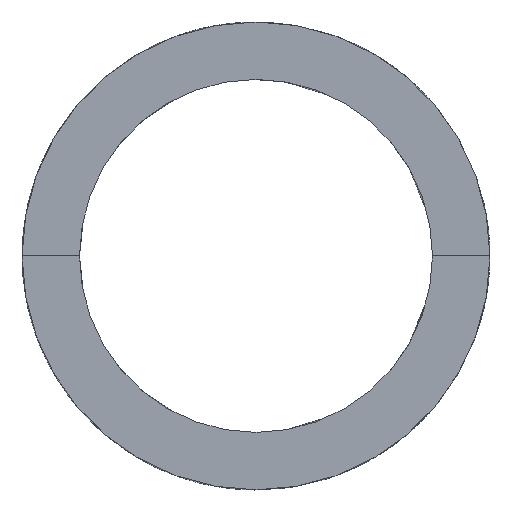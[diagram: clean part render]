
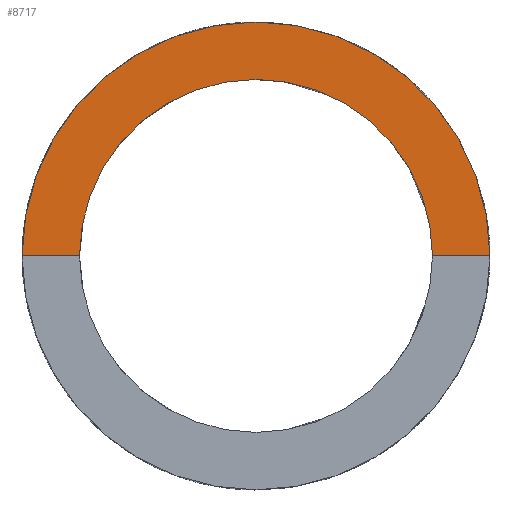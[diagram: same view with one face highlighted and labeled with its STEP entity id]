
A CAD part, top view. The second image highlights one B-rep face of the part: STEP entity #8717.
In plain terms, the highlighted planar face has unit normal (0, 0, 1).
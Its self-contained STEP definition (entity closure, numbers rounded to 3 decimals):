
#3=CARTESIAN_POINT('',(8.55,0.0,144.184));
#4=CARTESIAN_POINT('',(-8.55,0.0,144.184));
#5=CARTESIAN_POINT('',(6.45,0.0,144.184));
#6=CARTESIAN_POINT('',(-6.45,0.0,144.184));
#1844=CARTESIAN_POINT('',(0.0,0.0,144.184));
#1845=DIRECTION('',(0.0,0.0,1.0));
#1846=DIRECTION('',(1.0,0.0,0.0));
#1847=AXIS2_PLACEMENT_3D('',#1844,#1845,#1846);
#1848=CIRCLE('',#1847,8.55);
#1849=TRIMMED_CURVE('',#1848,(#3),(#4),.T.,.CARTESIAN.);
#2989=DIRECTION('',(1.0,0.0,0.0));
#2990=VECTOR('',#2989,1.0);
#2991=LINE('',#4,#2990);
#2992=CARTESIAN_POINT('',(0.0,0.0,144.184));
#2993=DIRECTION('',(0.0,0.0,1.0));
#2994=DIRECTION('',(1.0,0.0,0.0));
#2995=AXIS2_PLACEMENT_3D('',#2992,#2993,#2994);
#2996=CIRCLE('',#2995,6.45);
#2997=TRIMMED_CURVE('',#2996,(#5),(#6),.T.,.CARTESIAN.);
#2998=DIRECTION('',(-1.0,0.0,0.0));
#2999=VECTOR('',#2998,1.0);
#3000=LINE('',#3,#2999);
#5133=CARTESIAN_POINT('',(0.0,0.0,144.184));
#5134=DIRECTION('',(0.0,0.0,1.0));
#5135=DIRECTION('',(1.0,0.0,0.0));
#5136=AXIS2_PLACEMENT_3D('',#5133,#5134,#5135);
#5137=PLANE('',#5136);
#5235=VERTEX_POINT('',#3);
#5236=VERTEX_POINT('',#4);
#5237=VERTEX_POINT('',#5);
#5238=VERTEX_POINT('',#6);
#6272=EDGE_CURVE('',#5235,#5236,#1849,.T.);
#6501=EDGE_CURVE('',#5236,#5238,#2991,.T.);
#6502=EDGE_CURVE('',#5237,#5238,#2997,.T.);
#6503=EDGE_CURVE('',#5235,#5237,#3000,.T.);
#7373=ORIENTED_EDGE('',*,*,#6272,.T.);
#7374=ORIENTED_EDGE('',*,*,#6501,.T.);
#7375=ORIENTED_EDGE('',*,*,#6502,.F.);
#7376=ORIENTED_EDGE('',*,*,#6503,.F.);
#8657=EDGE_LOOP('',(#7373,#7374,#7375,#7376));
#8687=FACE_OUTER_BOUND('',#8657,.T.);
#8717=ADVANCED_FACE('',(#8687),#5137,.T.);
